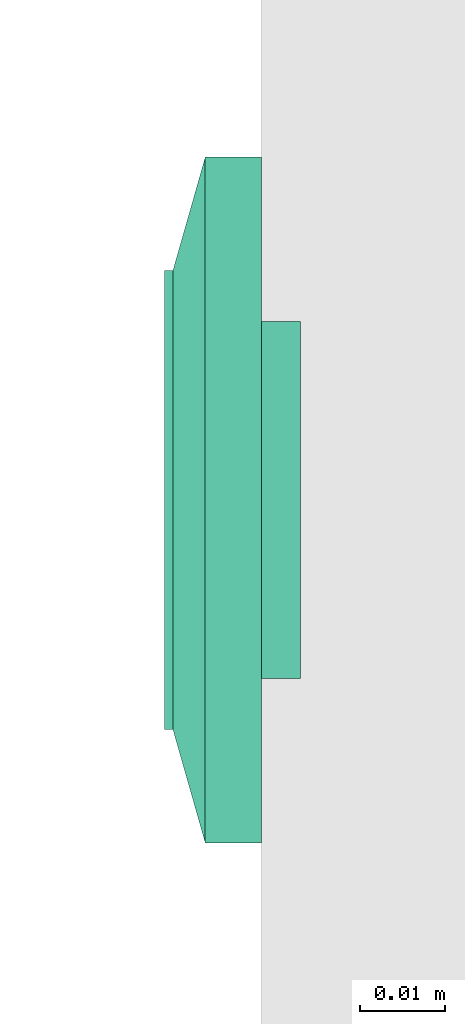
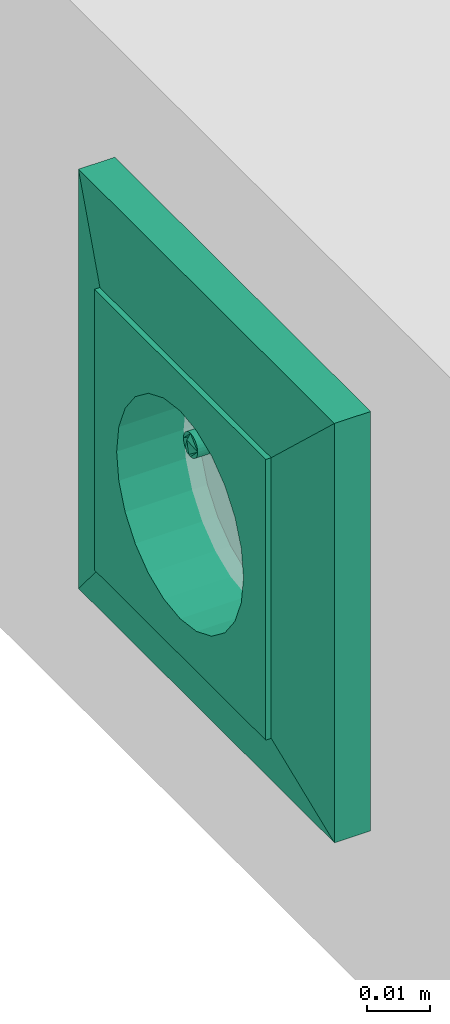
# One storey, part 89 of 166: 1 flow terminal.
"""IFC2X3 building model written with IfcOpenShell, lengths in metres."""

from ifc_helpers import new_model, entity, si_unit, converted_unit, derived_unit, direction, frame, origin, place, context, subcontext, project, spatial, face_set, surface_model, source, transform, mapped, type_object, type_shapes, element, save


model = new_model("IFC2X3")

# Units and contexts
model_context = context("Model", 3, precision=1e-05, world=origin(), true_north=direction((6.12303176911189e-17, 1.0)))
body_context = subcontext(model_context, "Body", "Model", "MODEL_VIEW")
ifc_project = project(units=[si_unit("LENGTHUNIT", "METRE"), si_unit("AREAUNIT", "SQUARE_METRE"), si_unit("VOLUMEUNIT", "CUBIC_METRE"), converted_unit("PLANEANGLEUNIT", "DEGREE", entity("IfcRatioMeasure", 0.0174532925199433), si_unit("PLANEANGLEUNIT", "RADIAN"), dimensions=[0, 0, 0, 0, 0, 0, 0]), si_unit("MASSUNIT", "GRAM", prefix="KILO"), derived_unit("MASSDENSITYUNIT", [(si_unit("MASSUNIT", "GRAM", prefix="KILO"), 1), (si_unit("LENGTHUNIT", "METRE"), -3)]), si_unit("TIMEUNIT", "SECOND"), si_unit("FREQUENCYUNIT", "HERTZ"), si_unit("THERMODYNAMICTEMPERATUREUNIT", "DEGREE_CELSIUS"), derived_unit("THERMALTRANSMITTANCEUNIT", [(si_unit("MASSUNIT", "GRAM", prefix="KILO"), 1), (si_unit("THERMODYNAMICTEMPERATUREUNIT", "KELVIN"), -1), (si_unit("TIMEUNIT", "SECOND"), -3)]), derived_unit("VOLUMETRICFLOWRATEUNIT", [(si_unit("LENGTHUNIT", "METRE"), 3), (si_unit("TIMEUNIT", "SECOND"), -1)]), si_unit("ELECTRICCURRENTUNIT", "AMPERE"), si_unit("ELECTRICVOLTAGEUNIT", "VOLT"), si_unit("POWERUNIT", "WATT"), si_unit("FORCEUNIT", "NEWTON"), si_unit("ILLUMINANCEUNIT", "LUX"), si_unit("LUMINOUSFLUXUNIT", "LUMEN"), si_unit("LUMINOUSINTENSITYUNIT", "CANDELA"), derived_unit("USERDEFINED", [(si_unit("MASSUNIT", "GRAM", prefix="KILO"), -1), (si_unit("LENGTHUNIT", "METRE"), -2), (si_unit("TIMEUNIT", "SECOND"), 3), (si_unit("LUMINOUSFLUXUNIT", "LUMEN"), 1)]), derived_unit("LINEARVELOCITYUNIT", [(si_unit("LENGTHUNIT", "METRE"), 1), (si_unit("TIMEUNIT", "SECOND"), -1)]), si_unit("PRESSUREUNIT", "PASCAL"), derived_unit("USERDEFINED", [(si_unit("LENGTHUNIT", "METRE"), -2), (si_unit("MASSUNIT", "GRAM", prefix="KILO"), 1), (si_unit("TIMEUNIT", "SECOND"), -2)])], contexts=[model_context])

# Site, building, storey
site_placement = place(None, origin())
site = spatial("IfcSite", under=ifc_project, at=site_placement, Name="Default", CompositionType="ELEMENT")
building_placement = place(site_placement, origin())
building = spatial("IfcBuilding", under=site, at=building_placement, CompositionType="ELEMENT")
storey_placement = place(building_placement, frame((0.0, 0.0, 4.27)))
storey = spatial("IfcBuildingStorey", under=building, at=storey_placement, Name="01", CompositionType="ELEMENT", Elevation=4.27)

# Flow terminal
light_fixture_type = type_object("IfcLightFixtureType", Name="IP20 ONDULEE", PredefinedType="NOTDEFINED")
shared_shape = source(origin(), body_context, "Body", "SurfaceModel", [
    surface_model("IfcFaceBasedSurfaceModel", [(-0.00225000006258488, 0.0127499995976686, 0.00949633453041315), (0.0, 0.0104999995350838, 0.00949633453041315), (0.0, 0.0115376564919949, 0.0101656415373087), (0.0, 0.0139623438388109, 0.0101656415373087), (0.0, 0.0144589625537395, 0.00984531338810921), (0.0, 0.0121178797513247, 0.0102778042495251), (0.0, 0.0133821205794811, 0.0102778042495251), (0.0, 0.0127499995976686, 0.010399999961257), (0.0, 0.0149999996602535, 0.00949633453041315), (0.00225000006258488, 0.0127499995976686, 0.00949633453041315), (0.0, 0.0110410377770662, 0.00984531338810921), (0.0, 0.0127499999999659, 0.00949633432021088), (0.00225000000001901, 0.0127499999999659, 0.00949633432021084), (0.00217333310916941, 0.0121676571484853, 0.00949633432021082), (0.00194855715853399, 0.0116249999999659, 0.00949633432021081), (0.00159099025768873, 0.0111590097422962, 0.00949633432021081), (0.001125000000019, 0.010801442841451, 0.00949633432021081), (0.00058234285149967, 0.0105766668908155, 0.00949633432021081), (0.0, 0.0104999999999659, 0.00949633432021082), (-0.000582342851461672, 0.0105766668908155, 0.00949633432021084), (-0.001124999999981, 0.010801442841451, 0.00949633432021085), (-0.00159099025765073, 0.0111590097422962, 0.00949633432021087), (-0.00194855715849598, 0.011624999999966, 0.00949633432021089), (-0.0021733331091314, 0.0121676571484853, 0.00949633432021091), (-0.00224999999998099, 0.012749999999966, 0.00949633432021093), (-0.00217333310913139, 0.0133323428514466, 0.00949633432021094), (-0.00194855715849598, 0.013874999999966, 0.00949633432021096), (-0.00159099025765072, 0.0143409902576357, 0.00949633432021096), (-0.00112499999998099, 0.0146985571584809, 0.00949633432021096), (-0.00058234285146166, 0.0149233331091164, 0.00949633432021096), (0.0, 0.0149999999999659, 0.00949633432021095), (0.000582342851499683, 0.0149233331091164, 0.00949633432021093), (0.00112500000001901, 0.0146985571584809, 0.00949633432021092), (0.00159099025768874, 0.0143409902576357, 0.00949633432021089), (0.001948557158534, 0.0138749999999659, 0.00949633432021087), (0.00217333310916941, 0.0133323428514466, 0.00949633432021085), (0.00225000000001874, 0.0127499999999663, -0.00360000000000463), (0.00217333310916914, 0.0121676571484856, -0.00360000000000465), (0.00194855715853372, 0.0116249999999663, -0.00360000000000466), (0.00159099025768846, 0.0111590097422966, -0.00360000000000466), (0.00112500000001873, 0.0108014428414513, -0.00360000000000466), (0.000582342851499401, 0.0105766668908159, -0.00360000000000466), (0.0, 0.0104999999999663, -0.00360000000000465), (-0.000582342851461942, 0.0105766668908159, -0.00360000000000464), (-0.00112499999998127, 0.0108014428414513, -0.00360000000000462), (-0.001590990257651, 0.0111590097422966, -0.0036000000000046), (-0.00194855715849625, 0.0116249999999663, -0.00360000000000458), (-0.00217333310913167, 0.0121676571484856, -0.00360000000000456), (-0.00224999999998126, 0.0127499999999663, -0.00360000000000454), (-0.00217333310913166, 0.013332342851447, -0.00360000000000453), (-0.00194855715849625, 0.0138749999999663, -0.00360000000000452), (-0.00159099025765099, 0.014340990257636, -0.00360000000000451), (-0.00112499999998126, 0.0146985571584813, -0.00360000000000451), (-0.000582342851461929, 0.0149233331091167, -0.00360000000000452), (0.0, 0.0149999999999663, -0.00360000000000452), (0.000582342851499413, 0.0149233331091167, -0.00360000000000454), (0.00112500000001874, 0.0146985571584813, -0.00360000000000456), (0.00159099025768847, 0.014340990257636, -0.00360000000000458), (0.00194855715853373, 0.0138749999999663, -0.0036000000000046), (0.00217333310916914, 0.013332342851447, -0.00360000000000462), (0.0270000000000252, 0.026999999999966, 0.0113999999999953), (-0.0269999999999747, 0.026999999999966, 0.0113999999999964), (-0.0269999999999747, -0.0270000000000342, 0.0113999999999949), (0.0270000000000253, -0.0270000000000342, 0.0113999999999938), (-0.0199999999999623, 0.0, 0.0113999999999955), (-0.0193185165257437, -0.00517638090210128, 0.0113999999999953), (-0.0173205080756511, -0.0100000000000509, 0.0113999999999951), (-0.0141421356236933, -0.0141421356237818, 0.011399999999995), (-0.00999999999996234, -0.0173205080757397, 0.0113999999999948), (-0.00517638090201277, -0.0193185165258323, 0.0113999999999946), (0.0, -0.0200000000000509, 0.0113999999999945), (0.00517638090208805, -0.0193185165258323, 0.0113999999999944), (0.0100000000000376, -0.0173205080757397, 0.0113999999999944), (0.0141421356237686, -0.0141421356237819, 0.0113999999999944), (0.0173205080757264, -0.010000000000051, 0.0113999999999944), (0.0193185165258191, -0.00517638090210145, 0.0113999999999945), (0.0200000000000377, 0.0, 0.0113999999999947), (0.0193185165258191, 0.00517638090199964, 0.0113999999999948), (0.0173205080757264, 0.0099999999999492, 0.011399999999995), (0.0141421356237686, 0.0141421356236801, 0.0113999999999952), (0.0100000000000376, 0.0173205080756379, 0.0113999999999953), (0.00517638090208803, 0.0193185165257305, 0.0113999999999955), (0.0, 0.0199999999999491, 0.0113999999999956), (-0.00517638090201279, 0.0193185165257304, 0.0113999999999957), (-0.00999999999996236, 0.0173205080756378, 0.0113999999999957), (-0.0141421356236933, 0.01414213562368, 0.0113999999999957), (-0.0173205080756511, 0.00999999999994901, 0.0113999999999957), (-0.0193185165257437, 0.00517638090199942, 0.0113999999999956), (0.0270000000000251, 0.0269999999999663, 0.00199999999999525), (0.0270000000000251, -0.0270000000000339, 0.00199999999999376), (-0.0269999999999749, -0.0270000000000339, 0.00199999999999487), (-0.0269999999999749, 0.0269999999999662, 0.00199999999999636), (0.0210000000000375, 0.0, 0.00199999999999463), (0.0202844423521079, -0.00543519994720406, 0.00199999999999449), (0.0181865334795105, -0.0105000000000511, 0.0019999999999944), (0.0148492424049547, -0.0148492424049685, 0.00199999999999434), (0.0105000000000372, -0.0181865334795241, 0.00199999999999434), (0.0054351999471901, -0.0202844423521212, 0.00199999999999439), (0.0, -0.0210000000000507, 0.00199999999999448), (-0.00543519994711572, -0.020284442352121, 0.00199999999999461), (-0.0104999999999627, -0.0181865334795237, 0.00199999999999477), (-0.0148492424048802, -0.014849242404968, 0.00199999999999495), (-0.0181865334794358, -0.0105000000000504, 0.00199999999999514), (-0.020284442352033, -0.00543519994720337, 0.00199999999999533), (-0.0209999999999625, 0.0, 0.00199999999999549), (-0.0202844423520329, 0.0054351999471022, 0.00199999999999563), (-0.0181865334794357, 0.0104999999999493, 0.00199999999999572), (-0.01484924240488, 0.0148492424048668, 0.00199999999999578), (-0.0104999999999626, 0.0181865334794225, 0.00199999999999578), (-0.00543519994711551, 0.0202844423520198, 0.00199999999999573), (0.0, 0.0209999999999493, 0.00199999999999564), (0.00543519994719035, 0.0202844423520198, 0.00199999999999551), (0.0105000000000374, 0.0181865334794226, 0.00199999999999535), (0.0148492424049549, 0.0148492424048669, 0.00199999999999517), (0.0181865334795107, 0.0104999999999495, 0.00199999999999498), (0.0202844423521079, 0.00543519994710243, 0.00199999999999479), (0.0200000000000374, 0.0, -0.00360000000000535), (0.0193185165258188, -0.00517638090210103, -0.00360000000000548), (0.0173205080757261, -0.0100000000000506, -0.00360000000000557), (0.0141421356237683, -0.0141421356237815, -0.00360000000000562), (0.0100000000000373, -0.0173205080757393, -0.00360000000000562), (0.00517638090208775, -0.0193185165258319, -0.00360000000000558), (0.0, -0.0200000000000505, -0.00360000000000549), (-0.00517638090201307, -0.0193185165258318, -0.00360000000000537), (-0.00999999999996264, -0.0173205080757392, -0.00360000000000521), (-0.0141421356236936, -0.0141421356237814, -0.00360000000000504), (-0.0173205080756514, -0.0100000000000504, -0.00360000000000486), (-0.019318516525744, -0.00517638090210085, -0.00360000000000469), (-0.0199999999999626, 0.0, -0.00360000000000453), (-0.0193185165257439, 0.00517638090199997, -0.0036000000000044), (-0.0173205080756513, 0.00999999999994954, -0.00360000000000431), (-0.0141421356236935, 0.0141421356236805, -0.00360000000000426), (-0.00999999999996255, 0.0173205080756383, -0.00360000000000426), (-0.00517638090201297, 0.0193185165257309, -0.0036000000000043), (0.0, 0.0199999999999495, -0.00360000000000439), (0.00517638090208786, 0.0193185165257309, -0.00360000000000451), (0.0100000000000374, 0.0173205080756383, -0.00360000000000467), (0.0141421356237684, 0.0141421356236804, -0.00360000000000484), (0.0173205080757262, 0.0099999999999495, -0.00360000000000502), (0.0193185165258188, 0.00517638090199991, -0.00360000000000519), (-0.0123499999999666, 0.0, -0.00360000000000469), (-0.0122562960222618, -0.000711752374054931, -0.00360000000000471), (-0.0119815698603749, -0.00137500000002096, -0.00360000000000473), (-0.0115445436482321, -0.00194454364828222, -0.00360000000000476), (-0.0109749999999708, -0.00238156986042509, -0.00360000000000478), (-0.0103117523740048, -0.00265629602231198, -0.0036000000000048), (-0.00959999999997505, -0.00275000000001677, -0.00360000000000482), (-0.0088882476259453, -0.00265629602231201, -0.00360000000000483), (-0.00822499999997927, -0.00238156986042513, -0.00360000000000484), (-0.00765545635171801, -0.00194454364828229, -0.00360000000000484), (-0.00721843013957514, -0.00137500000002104, -0.00360000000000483), (-0.00694370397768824, -0.000711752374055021, -0.00360000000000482), (-0.00684999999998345, 0.0, -0.0036000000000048), (-0.00694370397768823, 0.000711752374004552, -0.00360000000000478), (-0.00721843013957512, 0.00137499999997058, -0.00360000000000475), (-0.00765545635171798, 0.00194454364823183, -0.00360000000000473), (-0.00822499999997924, 0.00238156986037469, -0.0036000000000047), (-0.00888824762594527, 0.00265629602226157, -0.00360000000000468), (-0.00959999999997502, 0.00274999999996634, -0.00360000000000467), (-0.0103117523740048, 0.00265629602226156, -0.00360000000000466), (-0.0109749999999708, 0.00238156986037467, -0.00360000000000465), (-0.011544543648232, 0.00194454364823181, -0.00360000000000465), (-0.0119815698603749, 0.00137499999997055, -0.00360000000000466), (-0.0122562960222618, 0.000711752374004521, -0.00360000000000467), (0.00685000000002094, 0.0, -0.00360000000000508), (0.0069437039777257, -0.00071175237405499, -0.0036000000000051), (0.00721843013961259, -0.00137500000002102, -0.00360000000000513), (0.00765545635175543, -0.00194454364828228, -0.00360000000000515), (0.00822500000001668, -0.00238156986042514, -0.00360000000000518), (0.00888824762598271, -0.00265629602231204, -0.0036000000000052), (0.00960000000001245, -0.00275000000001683, -0.00360000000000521), (0.0103117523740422, -0.00265629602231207, -0.00360000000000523), (0.0109750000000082, -0.00238156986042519, -0.00360000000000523), (0.0115445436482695, -0.00194454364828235, -0.00360000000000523), (0.0119815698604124, -0.0013750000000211, -0.00360000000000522), (0.0122562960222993, -0.00071175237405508, -0.00360000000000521), (0.012350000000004, 0.0, -0.00360000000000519), (0.0122562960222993, 0.000711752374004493, -0.00360000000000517), (0.0119815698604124, 0.00137499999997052, -0.00360000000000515), (0.0115445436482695, 0.00194454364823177, -0.00360000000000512), (0.0109750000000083, 0.00238156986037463, -0.0036000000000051), (0.0103117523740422, 0.00265629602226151, -0.00360000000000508), (0.00960000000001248, 0.00274999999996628, -0.00360000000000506), (0.00888824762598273, 0.0026562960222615, -0.00360000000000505), (0.0082250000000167, 0.00238156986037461, -0.00360000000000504), (0.00765545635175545, 0.00194454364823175, -0.00360000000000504), (0.0072184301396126, 0.00137499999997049, -0.00360000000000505), (0.00694370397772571, 0.000711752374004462, -0.00360000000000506), (0.0210000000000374, 0.0, -0.00460000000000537), (0.0202844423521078, -0.00543519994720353, -0.00460000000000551), (0.0181865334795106, -0.0105000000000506, -0.0046000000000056), (0.0148492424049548, -0.0148492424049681, -0.00460000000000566), (0.0105000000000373, -0.0181865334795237, -0.00460000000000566), (0.00543519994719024, -0.0202844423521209, -0.00460000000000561), (0.0, -0.0210000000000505, -0.00460000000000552), (-0.00543519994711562, -0.0202844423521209, -0.00460000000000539), (-0.0104999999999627, -0.0181865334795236, -0.00460000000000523), (-0.0148492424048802, -0.0148492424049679, -0.00460000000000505), (-0.0181865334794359, -0.0105000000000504, -0.00460000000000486), (-0.0202844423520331, -0.00543519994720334, -0.00460000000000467), (-0.0209999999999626, 0.0, -0.00460000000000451), (-0.020284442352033, 0.00543519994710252, -0.00460000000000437), (-0.0181865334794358, 0.0104999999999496, -0.00460000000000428), (-0.0148492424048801, 0.0148492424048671, -0.00460000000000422), (-0.0104999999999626, 0.0181865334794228, -0.00460000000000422), (-0.00543519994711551, 0.02028444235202, -0.00460000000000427), (0.0, 0.0209999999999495, -0.00460000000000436), (0.00543519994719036, 0.02028444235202, -0.00460000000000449), (0.0105000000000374, 0.0181865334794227, -0.00460000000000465), (0.0148492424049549, 0.014849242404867, -0.00460000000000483), (0.0181865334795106, 0.0104999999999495, -0.00460000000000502), (0.0202844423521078, 0.00543519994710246, -0.00460000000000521), (-0.00684999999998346, 0.0, -0.0046000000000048), (-0.00694370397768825, 0.000711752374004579, -0.00460000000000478), (-0.00721843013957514, 0.00137499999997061, -0.00460000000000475), (-0.007655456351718, 0.00194454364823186, -0.00460000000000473), (-0.00822499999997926, 0.00238156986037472, -0.0046000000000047), (-0.00888824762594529, 0.0026562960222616, -0.00460000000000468), (-0.00959999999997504, 0.00274999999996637, -0.00460000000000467), (-0.0103117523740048, 0.00265629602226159, -0.00460000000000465), (-0.0109749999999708, 0.0023815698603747, -0.00460000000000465), (-0.0115445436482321, 0.00194454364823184, -0.00460000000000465), (-0.0119815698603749, 0.00137499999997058, -0.00460000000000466), (-0.0122562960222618, 0.000711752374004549, -0.00460000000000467), (-0.0123499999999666, 0.0, -0.00460000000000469), (-0.0122562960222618, -0.000711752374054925, -0.00460000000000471), (-0.0119815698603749, -0.00137500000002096, -0.00460000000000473), (-0.0115445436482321, -0.00194454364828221, -0.00460000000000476), (-0.0109749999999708, -0.00238156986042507, -0.00460000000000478), (-0.0103117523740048, -0.00265629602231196, -0.0046000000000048), (-0.00959999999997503, -0.00275000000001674, -0.00460000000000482), (-0.00888824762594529, -0.00265629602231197, -0.00460000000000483), (-0.00822499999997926, -0.00238156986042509, -0.00460000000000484), (-0.007655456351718, -0.00194454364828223, -0.00460000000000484), (-0.00721843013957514, -0.00137500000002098, -0.00460000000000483), (-0.00694370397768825, -0.000711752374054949, -0.00460000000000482), (0.012350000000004, 0.0, -0.00460000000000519), (0.0122562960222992, 0.000711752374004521, -0.00460000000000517), (0.0119815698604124, 0.00137499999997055, -0.00460000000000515), (0.0115445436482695, 0.0019445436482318, -0.00460000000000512), (0.0109750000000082, 0.00238156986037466, -0.0046000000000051), (0.0103117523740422, 0.00265629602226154, -0.00460000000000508), (0.00960000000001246, 0.00274999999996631, -0.00460000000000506), (0.00888824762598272, 0.00265629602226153, -0.00460000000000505), (0.00822500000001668, 0.00238156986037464, -0.00460000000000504), (0.00765545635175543, 0.00194454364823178, -0.00460000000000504), (0.00721843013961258, 0.00137499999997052, -0.00460000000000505), (0.00694370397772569, 0.00071175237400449, -0.00460000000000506), (0.00685000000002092, 0.0, -0.00460000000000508), (0.00694370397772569, -0.000711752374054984, -0.0046000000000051), (0.00721843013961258, -0.00137500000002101, -0.00460000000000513), (0.00765545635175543, -0.00194454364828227, -0.00460000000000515), (0.00822500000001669, -0.00238156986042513, -0.00460000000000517), (0.00888824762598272, -0.00265629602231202, -0.0046000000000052), (0.00960000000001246, -0.0027500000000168, -0.00460000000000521), (0.0103117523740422, -0.00265629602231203, -0.00460000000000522), (0.0109750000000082, -0.00238156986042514, -0.00460000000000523), (0.0115445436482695, -0.00194454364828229, -0.00460000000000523), (0.0119815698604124, -0.00137500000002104, -0.00460000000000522), (0.0122562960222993, -0.000711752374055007, -0.00460000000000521), (0.040350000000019, 0.0403499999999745, 0.00659999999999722), (0.040350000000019, -0.0403500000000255, 0.00659999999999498), (-0.0403499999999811, -0.0403500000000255, 0.00659999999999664), (-0.0403499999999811, 0.0403499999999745, 0.00659999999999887), (0.027000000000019, 0.0269999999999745, 0.00659999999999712), (-0.0269999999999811, 0.0269999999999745, 0.00659999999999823), (-0.026999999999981, -0.0270000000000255, 0.00659999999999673), (0.027000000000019, -0.0270000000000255, 0.00659999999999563), (0.027000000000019, 0.0269999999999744, 0.0103999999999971), (-0.026999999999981, 0.0269999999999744, 0.0103999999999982), (-0.026999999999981, -0.0270000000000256, 0.0103999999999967), (0.027000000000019, -0.0270000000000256, 0.0103999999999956), (0.040350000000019, 0.0403499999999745, 0.00659999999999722), (0.040350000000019, -0.0403500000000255, 0.00659999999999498), (-0.0403499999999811, -0.0403500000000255, 0.00659999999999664), (-0.0403499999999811, 0.0403499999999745, 0.00659999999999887), (-0.0269999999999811, 0.0269999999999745, 0.00659999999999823), (-0.0269999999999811, -0.0270000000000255, 0.00659999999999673), (0.0270000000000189, -0.0270000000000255, 0.00659999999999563), (0.0270000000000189, 0.0269999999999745, 0.00659999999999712), (0.0403500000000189, 0.0403499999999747, 0.0), (0.0403500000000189, -0.0403500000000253, 0.0), (-0.0403499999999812, -0.0403500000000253, 0.0), (-0.0403499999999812, 0.0403499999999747, 0.0), (0.0270000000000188, 0.0269999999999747, 0.0), (-0.0269999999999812, 0.0269999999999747, 0.0), (-0.0269999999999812, -0.0270000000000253, 0.0), (0.0270000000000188, -0.0270000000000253, 0.0)], [face_set([[[0, 1, 2]], [[3, 4, 2, 5]], [[6, 3, 5, 7]], [[2, 4, 0]], [[4, 8, 0]], [[3, 9, 8]], [[1, 9, 10]], [[2, 3, 6, 7]], [[3, 10, 9]], [[2, 10, 3]], [[11, 1, 0, 8]], [[11, 8, 9, 1]]]), face_set([[[12, 13, 14, 15, 16, 17, 18, 19, 20, 21, 22, 23, 24, 25, 26, 27, 28, 29, 30, 31, 32, 33, 34, 35]], [[36, 37, 38, 39, 40, 41, 42, 43, 44, 45, 46, 47, 48, 49, 50, 51, 52, 53, 54, 55, 56, 57, 58, 59]], [[48, 47, 23, 24]], [[47, 46, 22, 23]], [[45, 44, 20, 21]], [[46, 45, 21, 22]], [[44, 43, 19, 20]], [[18, 19, 43, 42]], [[42, 41, 17, 18]], [[41, 40, 16, 17]], [[39, 38, 14, 15]], [[40, 39, 15, 16]], [[38, 37, 13, 14]], [[12, 13, 37, 36]], [[36, 59, 35, 12]], [[59, 58, 34, 35]], [[57, 56, 32, 33]], [[58, 57, 33, 34]], [[56, 55, 31, 32]], [[30, 31, 55, 54]], [[54, 53, 29, 30]], [[53, 52, 28, 29]], [[51, 50, 26, 27]], [[52, 51, 27, 28]], [[50, 49, 25, 26]], [[24, 25, 49, 48]]]), face_set([[[60, 61, 62, 63], [64, 65, 66, 67, 68, 69, 70, 71, 72, 73, 74, 75, 76, 77, 78, 79, 80, 81, 82, 83, 84, 85, 86, 87]], [[88, 89, 90, 91], [92, 93, 94, 95, 96, 97, 98, 99, 100, 101, 102, 103, 104, 105, 106, 107, 108, 109, 110, 111, 112, 113, 114, 115]], [[61, 60, 88, 91]], [[62, 61, 91, 90]], [[63, 62, 90, 89]], [[60, 63, 89, 88]], [[116, 117, 118, 119, 120, 121, 122, 123, 124, 125, 126, 127, 128, 129, 130, 131, 132, 133, 134, 135, 136, 137, 138, 139], [140, 141, 142, 143, 144, 145, 146, 147, 148, 149, 150, 151, 152, 153, 154, 155, 156, 157, 158, 159, 160, 161, 162, 163], [164, 165, 166, 167, 168, 169, 170, 171, 172, 173, 174, 175, 176, 177, 178, 179, 180, 181, 182, 183, 184, 185, 186, 187]], [[64, 128, 127, 65]], [[65, 127, 126, 66]], [[67, 125, 124, 68]], [[66, 126, 125, 67]], [[68, 124, 123, 69]], [[122, 70, 69, 123]], [[70, 122, 121, 71]], [[71, 121, 120, 72]], [[73, 119, 118, 74]], [[72, 120, 119, 73]], [[74, 118, 117, 75]], [[116, 76, 75, 117]], [[76, 116, 139, 77]], [[77, 139, 138, 78]], [[79, 137, 136, 80]], [[78, 138, 137, 79]], [[80, 136, 135, 81]], [[134, 82, 81, 135]], [[82, 134, 133, 83]], [[83, 133, 132, 84]], [[84, 132, 131, 85]], [[85, 131, 130, 86]], [[130, 129, 87, 86]], [[64, 87, 129, 128]], [[188, 189, 190, 191, 192, 193, 194, 195, 196, 197, 198, 199, 200, 201, 202, 203, 204, 205, 206, 207, 208, 209, 210, 211], [212, 213, 214, 215, 216, 217, 218, 219, 220, 221, 222, 223, 224, 225, 226, 227, 228, 229, 230, 231, 232, 233, 234, 235], [236, 237, 238, 239, 240, 241, 242, 243, 244, 245, 246, 247, 248, 249, 250, 251, 252, 253, 254, 255, 256, 257, 258, 259]], [[200, 199, 103, 104]], [[199, 198, 102, 103]], [[197, 196, 100, 101]], [[198, 197, 101, 102]], [[196, 195, 99, 100]], [[98, 99, 195, 194]], [[194, 193, 97, 98]], [[193, 192, 96, 97]], [[191, 190, 94, 95]], [[192, 191, 95, 96]], [[190, 189, 93, 94]], [[92, 93, 189, 188]], [[188, 211, 115, 92]], [[211, 210, 114, 115]], [[209, 208, 112, 113]], [[210, 209, 113, 114]], [[208, 207, 111, 112]], [[110, 111, 207, 206]], [[206, 205, 109, 110]], [[205, 204, 108, 109]], [[203, 202, 106, 107]], [[204, 203, 107, 108]], [[202, 201, 105, 106]], [[104, 105, 201, 200]], [[141, 225, 226, 142]], [[140, 224, 225, 141]], [[144, 228, 229, 145]], [[143, 227, 228, 144]], [[142, 226, 227, 143]], [[230, 146, 145, 229]], [[149, 233, 232, 148]], [[148, 232, 231, 147]], [[152, 212, 235, 151]], [[151, 235, 234, 150]], [[150, 234, 233, 149]], [[146, 230, 231, 147]], [[154, 214, 213, 153]], [[153, 213, 212, 152]], [[157, 217, 216, 156]], [[156, 216, 215, 155]], [[155, 215, 214, 154]], [[218, 158, 157, 217]], [[160, 220, 221, 161]], [[159, 219, 220, 160]], [[163, 223, 224, 140]], [[162, 222, 223, 163]], [[161, 221, 222, 162]], [[158, 218, 219, 159]], [[166, 250, 249, 165]], [[165, 249, 248, 164]], [[169, 253, 252, 168]], [[168, 252, 251, 167]], [[167, 251, 250, 166]], [[254, 170, 169, 253]], [[172, 256, 257, 173]], [[171, 255, 256, 172]], [[175, 259, 236, 176]], [[174, 258, 259, 175]], [[173, 257, 258, 174]], [[170, 254, 255, 171]], [[177, 237, 238, 178]], [[176, 236, 237, 177]], [[180, 240, 241, 181]], [[179, 239, 240, 180]], [[178, 238, 239, 179]], [[242, 182, 181, 241]], [[185, 245, 244, 184]], [[184, 244, 243, 183]], [[164, 248, 247, 187]], [[187, 247, 246, 186]], [[186, 246, 245, 185]], [[182, 242, 243, 183]]]), face_set([[[260, 261, 262, 263], [264, 265, 266, 267]], [[260, 268, 269, 263]], [[263, 269, 270, 262]], [[262, 270, 271, 261]], [[261, 271, 268, 260]], [[264, 265, 269, 268]], [[265, 266, 270, 269]], [[266, 267, 271, 270]], [[268, 271, 267, 264]]]), face_set([[[272, 273, 274, 275], [276, 277, 278, 279]], [[280, 281, 282, 283], [284, 285, 286, 287]], [[275, 272, 280, 283]], [[274, 275, 283, 282]], [[273, 274, 282, 281]], [[272, 273, 281, 280]], [[284, 285, 276, 279]], [[285, 286, 277, 276]], [[286, 287, 278, 277]], [[279, 278, 287, 284]]])]),
])
type_shapes(light_fixture_type, [shared_shape])
flow_terminal_placement = place(storey_placement, frame((53.3787436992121, -190.963514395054, 0.438000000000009), z_axis=(-1.0, 0.0, 0.0), x_axis=(0.0, -1.0, 0.0)))
element("IfcFlowTerminal", 1, at=flow_terminal_placement, inside=storey, type_object=light_fixture_type, Name="INT Prise de courant:IP20 ONDULEE", ObjectType="INT Prise de courant:IP20 ONDULEE", context=body_context, shape_type="MappedRepresentation", body=[
    mapped(shared_shape, transform((0.0, 0.0, 0.0), scale=1.0)),
])

save(model, "model.ifc")
